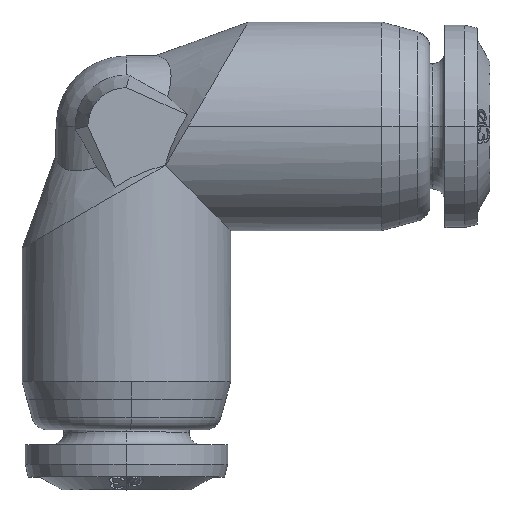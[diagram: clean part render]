
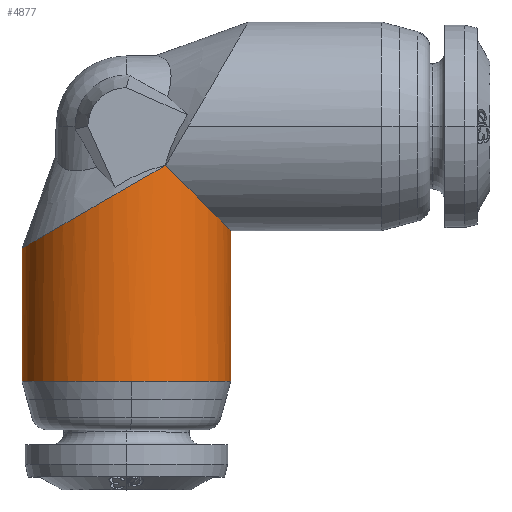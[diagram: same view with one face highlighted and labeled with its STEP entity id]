
A CAD part, top view. The second image highlights one B-rep face of the part: STEP entity #4877.
In plain terms, the highlighted cylindrical face has radius 3.25 mm (diameter 6.5 mm), a partial arc.
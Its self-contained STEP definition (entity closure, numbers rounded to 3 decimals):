
#563 = EDGE_CURVE ( 'NONE', #12691, #12695, #2896, .T. ) ;
#564 = EDGE_CURVE ( 'NONE', #12695, #12699, #2891, .T. ) ;
#565 = EDGE_CURVE ( 'NONE', #12569, #12699, #11523, .T. ) ;
#566 = EDGE_CURVE ( 'NONE', #12694, #12569, #11524, .T. ) ;
#567 = EDGE_CURVE ( 'NONE', #12697, #12694, #11525, .T. ) ;
#568 = EDGE_CURVE ( 'NONE', #12692, #12697, #11526, .T. ) ;
#569 = EDGE_CURVE ( 'NONE', #12698, #12692, #11527, .T. ) ;
#570 = EDGE_CURVE ( 'NONE', #3214, #12698, #11528, .T. ) ;
#571 = EDGE_CURVE ( 'NONE', #12701, #3214, #2902, .T. ) ;
#572 = EDGE_CURVE ( 'NONE', #12701, #12691, #2899, .T. ) ;
#2891 = LINE ( 'NONE', #3247, #2900 ) ;
#2896 = CIRCLE ( 'NONE', #7013, 3.25 ) ;
#2899 = CIRCLE ( 'NONE', #7014, 3.25 ) ;
#2900 = VECTOR ( 'NONE', #3241, 1000. ) ;
#2901 = VECTOR ( 'NONE', #3859, 1000. ) ;
#2902 = LINE ( 'NONE', #3272, #2901 ) ;
#3054 = CARTESIAN_POINT ( 'NONE',  ( 0., -7.94, 0. ) ) ;
#3055 = DIRECTION ( 'NONE',  ( 0., 1., 0. ) ) ;
#3056 = DIRECTION ( 'NONE',  ( -1., 0., 0. ) ) ;
#3214 = VERTEX_POINT ( 'NONE', #10587 ) ;
#3241 = DIRECTION ( 'NONE',  ( 0., 1., 0. ) ) ;
#3245 = CARTESIAN_POINT ( 'NONE',  ( 3.25, -3.25, 1.367 ) ) ;
#3246 = CARTESIAN_POINT ( 'NONE',  ( 2.486, -2.486, 2.5 ) ) ;
#3247 = CARTESIAN_POINT ( 'NONE',  ( 3.25, 0., 0. ) ) ;
#3248 = CARTESIAN_POINT ( 'NONE',  ( 0., -7.94, 0. ) ) ;
#3249 = DIRECTION ( 'NONE',  ( 0., 1., 0. ) ) ;
#3250 = DIRECTION ( 'NONE',  ( -1., 0., 0. ) ) ;
#3251 = CARTESIAN_POINT ( 'NONE',  ( 0., -1.924, 3.25 ) ) ;
#3252 = CARTESIAN_POINT ( 'NONE',  ( 1.22, -1.22, 3.013 ) ) ;
#3253 = CARTESIAN_POINT ( 'NONE',  ( 0.417, -1.683, 3.25 ) ) ;
#3254 = CARTESIAN_POINT ( 'NONE',  ( 3.25, -3.25, 0. ) ) ;
#3255 = CARTESIAN_POINT ( 'NONE',  ( -0.851, -2.415, 3.165 ) ) ;
#3256 = CARTESIAN_POINT ( 'NONE',  ( -1.997, -3.077, 2.599 ) ) ;
#3257 = CARTESIAN_POINT ( 'NONE',  ( -2.298, -3.25, 2.298 ) ) ;
#3258 = CARTESIAN_POINT ( 'NONE',  ( 0.833, -1.443, 3.169 ) ) ;
#3259 = CARTESIAN_POINT ( 'NONE',  ( 1.22, -1.22, 3.013 ) ) ;
#3260 = CARTESIAN_POINT ( 'NONE',  ( -1.244, -2.642, 3.003 ) ) ;
#3261 = CARTESIAN_POINT ( 'NONE',  ( -3.003, -3.657, 1.244 ) ) ;
#3262 = CARTESIAN_POINT ( 'NONE',  ( -0.425, -2.169, 3.25 ) ) ;
#3263 = CARTESIAN_POINT ( 'NONE',  ( 0., -1.924, 3.25 ) ) ;
#3264 = CARTESIAN_POINT ( 'NONE',  ( -3.25, -3.8, 0. ) ) ;
#3265 = CARTESIAN_POINT ( 'NONE',  ( -2.84, -3.563, 1.637 ) ) ;
#3266 = CARTESIAN_POINT ( 'NONE',  ( -1.637, -2.869, 2.84 ) ) ;
#3267 = CARTESIAN_POINT ( 'NONE',  ( -1.244, -2.642, 3.003 ) ) ;
#3269 = CARTESIAN_POINT ( 'NONE',  ( -3.25, -3.8, 0.425 ) ) ;
#3270 = CARTESIAN_POINT ( 'NONE',  ( -2.599, -3.424, 1.997 ) ) ;
#3271 = CARTESIAN_POINT ( 'NONE',  ( -2.298, -3.25, 2.298 ) ) ;
#3272 = CARTESIAN_POINT ( 'NONE',  ( -3.25, 0., 0. ) ) ;
#3273 = CARTESIAN_POINT ( 'NONE',  ( -3.165, -3.751, 0.851 ) ) ;
#3274 = CARTESIAN_POINT ( 'NONE',  ( -3.003, -3.657, 1.244 ) ) ;
#3859 = DIRECTION ( 'NONE',  ( 0., 1., 0. ) ) ;
#4334 = EDGE_LOOP ( 'NONE', ( #4468, #4469, #4470, #5062, #5063, #5064, #5065, #5066, #5067, #5068 ) ) ;
#4468 = ORIENTED_EDGE ( 'NONE', *, *, #563, .T. ) ;
#4469 = ORIENTED_EDGE ( 'NONE', *, *, #564, .T. ) ;
#4470 = ORIENTED_EDGE ( 'NONE', *, *, #565, .F. ) ;
#4877 = ADVANCED_FACE ( 'NONE', ( #9418 ), #9425, .T. ) ;
#5062 = ORIENTED_EDGE ( 'NONE', *, *, #566, .F. ) ;
#5063 = ORIENTED_EDGE ( 'NONE', *, *, #567, .F. ) ;
#5064 = ORIENTED_EDGE ( 'NONE', *, *, #568, .F. ) ;
#5065 = ORIENTED_EDGE ( 'NONE', *, *, #569, .F. ) ;
#5066 = ORIENTED_EDGE ( 'NONE', *, *, #570, .F. ) ;
#5067 = ORIENTED_EDGE ( 'NONE', *, *, #571, .F. ) ;
#5068 = ORIENTED_EDGE ( 'NONE', *, *, #572, .T. ) ;
#7013 = AXIS2_PLACEMENT_3D ( 'NONE', #3248, #3249, #3250 ) ;
#7014 = AXIS2_PLACEMENT_3D ( 'NONE', #3054, #3055, #3056 ) ;
#8913 = CARTESIAN_POINT ( 'NONE',  ( 0., 0., 0. ) ) ;
#8914 = DIRECTION ( 'NONE',  ( 0., 1., 0. ) ) ;
#8920 = DIRECTION ( 'NONE',  ( -1., 0., 0. ) ) ;
#9418 = FACE_OUTER_BOUND ( 'NONE', #4334, .T. ) ;
#9425 = CYLINDRICAL_SURFACE ( 'NONE', #9518, 3.25 ) ;
#9518 = AXIS2_PLACEMENT_3D ( 'NONE', #8913, #8914, #8920 ) ;
#9729 = CARTESIAN_POINT ( 'NONE',  ( 1.22, -1.22, 3.013 ) ) ;
#9847 = CARTESIAN_POINT ( 'NONE',  ( 0.163, -7.94, 3.246 ) ) ;
#9848 = CARTESIAN_POINT ( 'NONE',  ( -2.298, -3.25, 2.298 ) ) ;
#9850 = CARTESIAN_POINT ( 'NONE',  ( 0., -1.924, 3.25 ) ) ;
#9851 = CARTESIAN_POINT ( 'NONE',  ( 3.25, -7.94, 0. ) ) ;
#9853 = CARTESIAN_POINT ( 'NONE',  ( -1.244, -2.642, 3.003 ) ) ;
#9854 = CARTESIAN_POINT ( 'NONE',  ( -3.003, -3.657, 1.244 ) ) ;
#9855 = CARTESIAN_POINT ( 'NONE',  ( 3.25, -3.25, 0. ) ) ;
#9857 = CARTESIAN_POINT ( 'NONE',  ( -3.25, -7.94, 0. ) ) ;
#10587 = CARTESIAN_POINT ( 'NONE',  ( -3.25, -3.8, 0. ) ) ;
#11523 =( BOUNDED_CURVE ( )  B_SPLINE_CURVE ( 3, ( #3252, #3246, #3245, #3254 ),
 .UNSPECIFIED., .F., .T. ) 
 B_SPLINE_CURVE_WITH_KNOTS ( ( 4, 4 ),
 ( 1.955, 3.142 ),
 .UNSPECIFIED. ) 
 CURVE ( )  GEOMETRIC_REPRESENTATION_ITEM ( )  RATIONAL_B_SPLINE_CURVE ( ( 1., 0.886, 0.886, 1. ) ) 
 REPRESENTATION_ITEM ( '' )  );
#11524 = B_SPLINE_CURVE_WITH_KNOTS ( 'NONE', 3,
 ( #3251, #3253, #3258, #3259 ),
 .UNSPECIFIED., .F., .F.,
 ( 4, 4 ),
 ( 0., 1. ),
 .UNSPECIFIED. ) ;
#11525 = B_SPLINE_CURVE_WITH_KNOTS ( 'NONE', 3,
 ( #3260, #3255, #3262, #3263 ),
 .UNSPECIFIED., .F., .F.,
 ( 4, 4 ),
 ( 0., 1. ),
 .UNSPECIFIED. ) ;
#11526 = B_SPLINE_CURVE_WITH_KNOTS ( 'NONE', 3,
 ( #3257, #3256, #3266, #3267 ),
 .UNSPECIFIED., .F., .F.,
 ( 4, 4 ),
 ( 0., 1. ),
 .UNSPECIFIED. ) ;
#11527 = B_SPLINE_CURVE_WITH_KNOTS ( 'NONE', 3,
 ( #3261, #3265, #3270, #3271 ),
 .UNSPECIFIED., .F., .F.,
 ( 4, 4 ),
 ( 0., 1. ),
 .UNSPECIFIED. ) ;
#11528 = B_SPLINE_CURVE_WITH_KNOTS ( 'NONE', 3,
 ( #3264, #3269, #3273, #3274 ),
 .UNSPECIFIED., .F., .F.,
 ( 4, 4 ),
 ( 0., 1. ),
 .UNSPECIFIED. ) ;
#12569 = VERTEX_POINT ( 'NONE', #9729 ) ;
#12691 = VERTEX_POINT ( 'NONE', #9847 ) ;
#12692 = VERTEX_POINT ( 'NONE', #9848 ) ;
#12694 = VERTEX_POINT ( 'NONE', #9850 ) ;
#12695 = VERTEX_POINT ( 'NONE', #9851 ) ;
#12697 = VERTEX_POINT ( 'NONE', #9853 ) ;
#12698 = VERTEX_POINT ( 'NONE', #9854 ) ;
#12699 = VERTEX_POINT ( 'NONE', #9855 ) ;
#12701 = VERTEX_POINT ( 'NONE', #9857 ) ;
